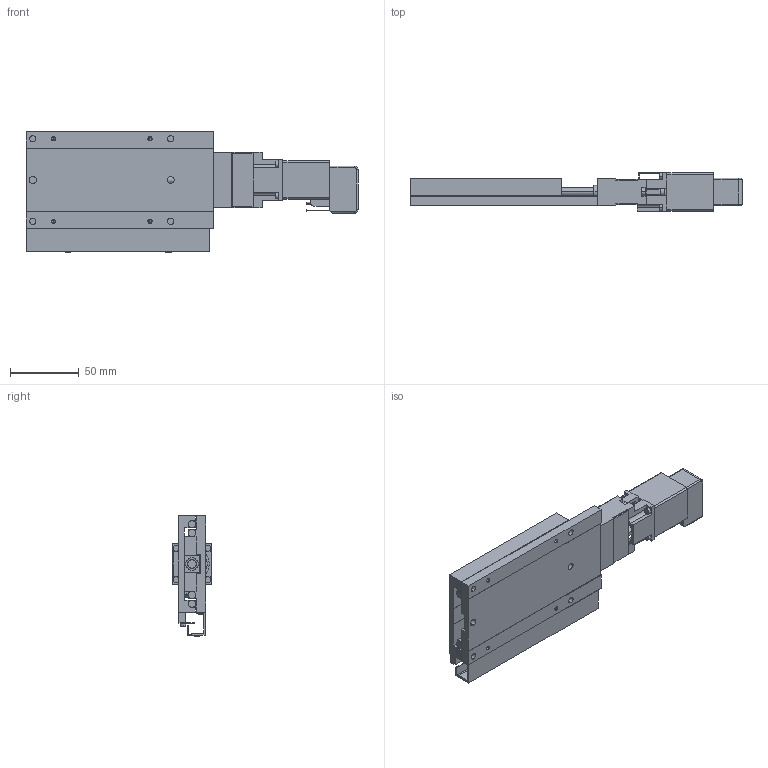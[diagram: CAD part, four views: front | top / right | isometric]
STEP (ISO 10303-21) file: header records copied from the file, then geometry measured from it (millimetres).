
FILE_DESCRIPTION(('STEP AP203'),'1');
FILE_NAME('C:/3D-Trans/3D_PG750T-R□-ZA+240118.step','2024-02-26T09:08:12',(' '),(' '),'Spatial InterOp 3D',' ',' ');
FILE_SCHEMA(('CONFIG_CONTROL_DESIGN'));
Length unit declared in the file: millimetre
Products named in the file (6): 1; 2; 3; 4; 5; 6
Bounding box: 241 x 28 x 87.4 mm (x, y, z)
Volume: 192364.1 mm3; surface area: 85526.9 mm2
Topology: 6 solids, 6 shells, 596 faces, 1511 edges, 936 vertices
Faces by surface type: plane 296, cylinder 204, cone 92, torus 4
Entity records: 18246 total; most frequent: CARTESIAN_POINT 3346, DIRECTION 3171, ORIENTED_EDGE 2966, EDGE_CURVE 1483, AXIS2_PLACEMENT_3D 1113, LINE 945, VECTOR 945, VERTEX_POINT 936
